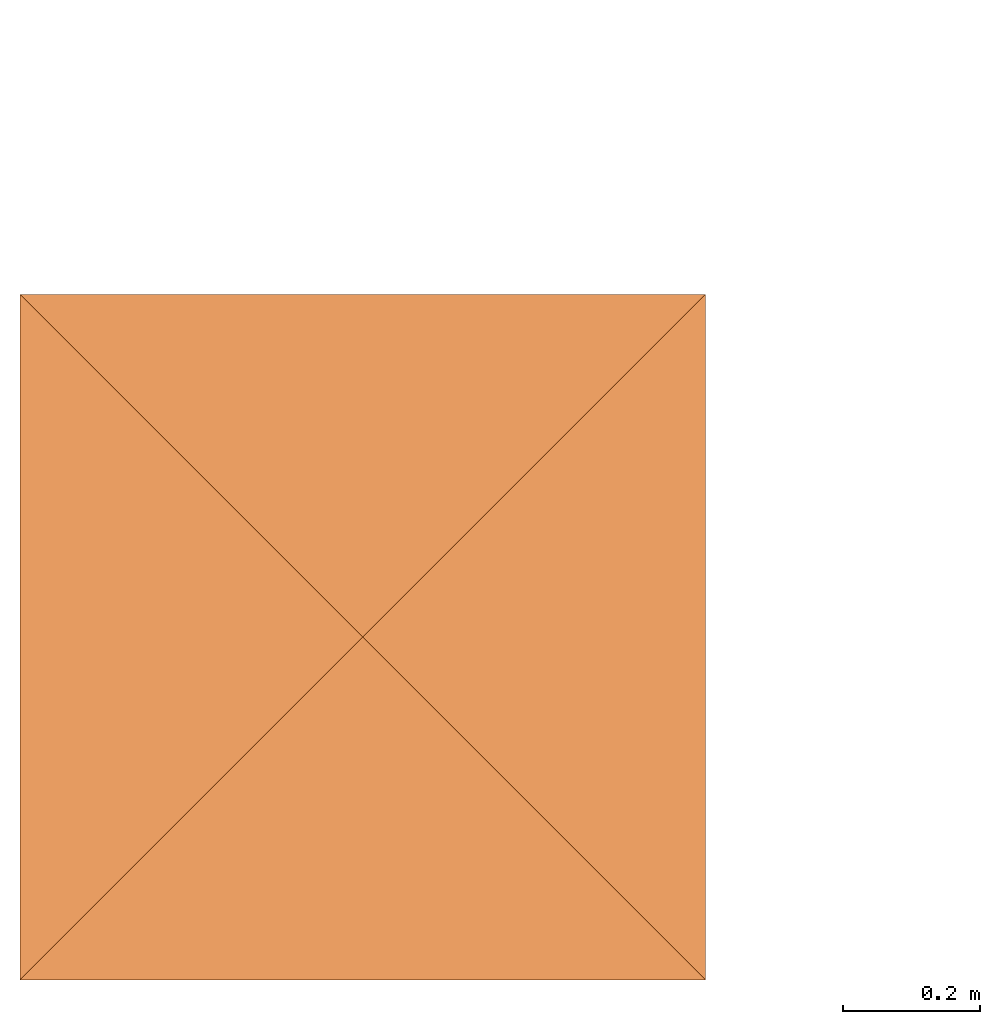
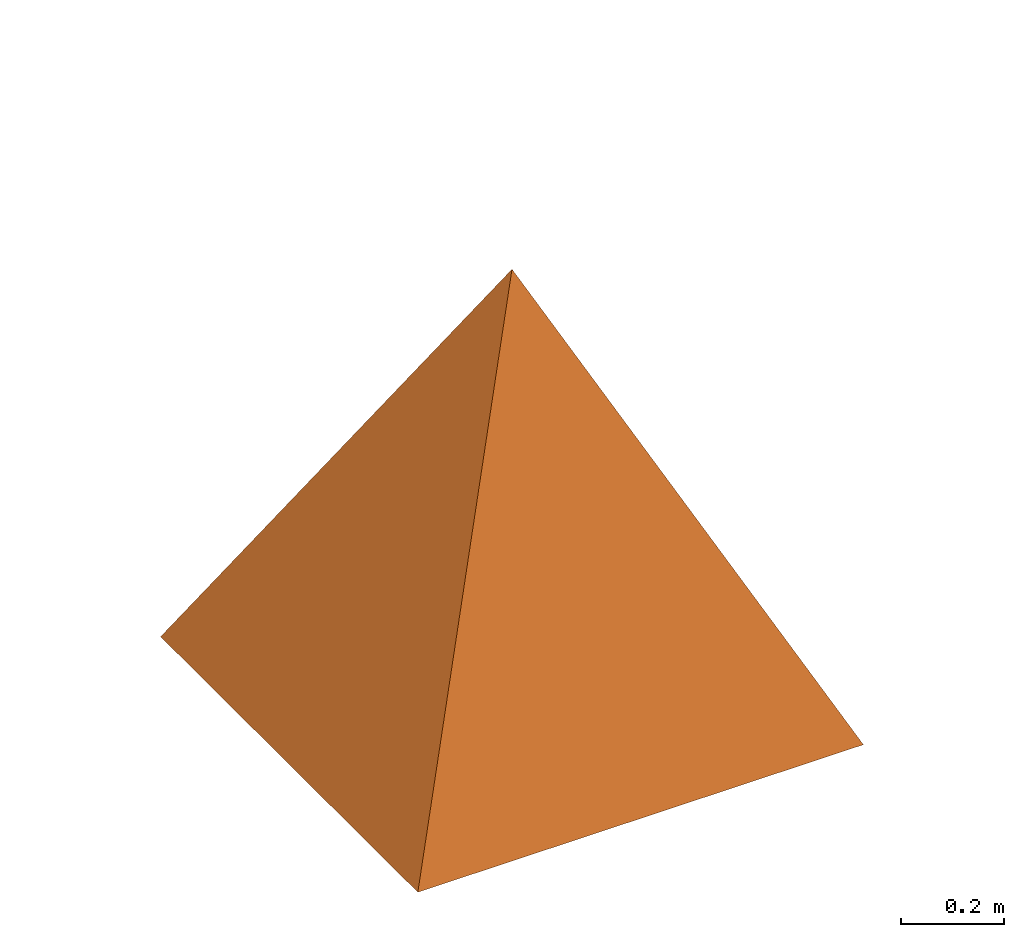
# One storey, part 3 of 9: 1 proxy.
"""IFC2X3 building model written with IfcOpenShell, lengths in metres."""

from ifc_helpers import new_model, entity, si_unit, converted_unit, derived_unit, direction, frame, origin, place, context, subcontext, project, spatial, faceted_brep, element, save


model = new_model("IFC2X3")

# Units and contexts
model_context = context("Model", 3, precision=1e-05, world=origin(), true_north=direction((0.772621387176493, -0.634867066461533)))
body_context = subcontext(model_context, "Body", "Model", "MODEL_VIEW")
ifc_project = project(units=[si_unit("LENGTHUNIT", "METRE"), si_unit("AREAUNIT", "SQUARE_METRE"), si_unit("VOLUMEUNIT", "CUBIC_METRE"), si_unit("MASSUNIT", "GRAM", prefix="KILO"), converted_unit("PLANEANGLEUNIT", "DEGREE", entity("IfcPlaneAngleMeasure", 0.0174532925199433), si_unit("PLANEANGLEUNIT", "RADIAN"), dimensions=[0, 0, 0, 0, 0, 0, 0]), derived_unit("THERMALTRANSMITTANCEUNIT", [(si_unit("POWERUNIT", "WATT"), 1), (si_unit("THERMODYNAMICTEMPERATUREUNIT", "KELVIN"), -1), (si_unit("LENGTHUNIT", "METRE"), -2)]), derived_unit("VOLUMETRICFLOWRATEUNIT", [(si_unit("LENGTHUNIT", "METRE"), 3), (converted_unit("TIMEUNIT", "hour", entity("IfcTimeMeasure", 3600.0), si_unit("TIMEUNIT", "SECOND"), dimensions=[0, 0, 1, 0, 0, 0, 0]), -1), (si_unit("LENGTHUNIT", "METRE"), -1)])], contexts=[model_context])

# Site, building, storey
site_placement = place(None, origin())
site = spatial("IfcSite", under=ifc_project, at=site_placement, Name="Modelle auf dem Nullpunkt", CompositionType="ELEMENT")
building_placement = place(site_placement, origin())
building = spatial("IfcBuilding", under=site, at=building_placement, Name="I", CompositionType="ELEMENT")
storey_placement = place(building_placement, origin())
storey = spatial("IfcBuildingStorey", under=building, at=storey_placement, Name="UG", CompositionType="ELEMENT", Elevation=0.0)

# Proxy
proxy_placement = place(storey_placement, frame((27.9489999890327, -21.6275776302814, -1.0)))
element("IfcBuildingElementProxy", 1, at=proxy_placement, inside=storey, Name="Kontrollpunkt", context=body_context, shape_type="Brep", body=[
    faceted_brep([(0.0, 1.00000000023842, 0.0), (0.0, 0.0, 0.0), (1.0, 0.0, 0.0), (1.0, 1.0, 0.0), (0.5, 0.500000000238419, 1.0)], [[[0, 1, 2, 3]], [[4, 0, 3]], [[4, 3, 2]], [[4, 2, 1]], [[4, 1, 0]]], orient=[[False], [False], [False], [False], [False]]),
])

save(model, "model.ifc")
